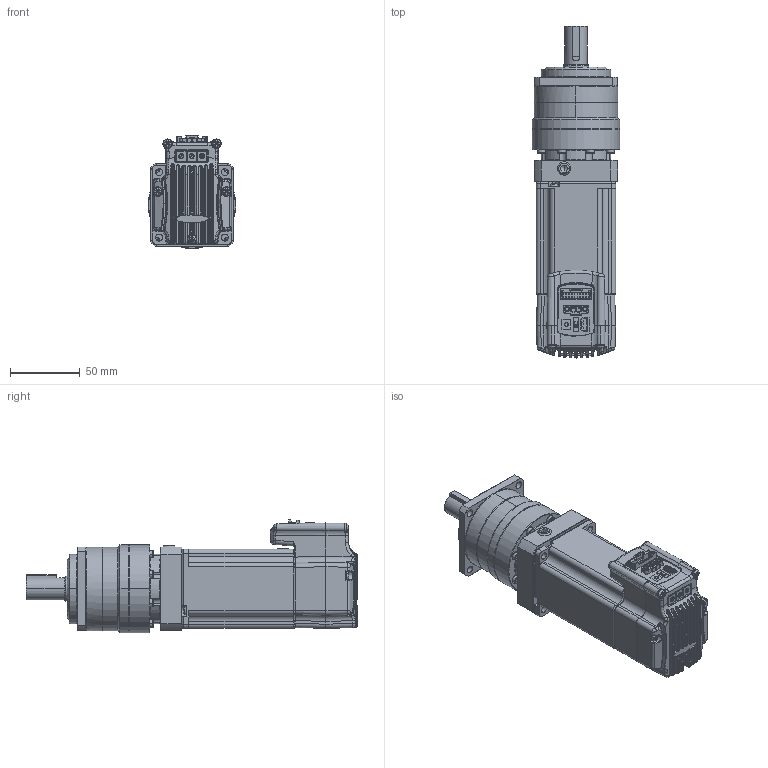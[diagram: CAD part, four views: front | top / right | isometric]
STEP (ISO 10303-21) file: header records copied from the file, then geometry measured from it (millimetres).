
FILE_DESCRIPTION (( 'STEP AP203' ), '1' );
FILE_NAME ('130416 Ezi-SERVO PG-BT-56L-PN3~10.STEP', '2013-04-17T01:15:47', ( '' ), ( '' ), 'SwSTEP 2.0', 'SolidWorks 2012', '' );
FILE_SCHEMA (( 'CONFIG_CONTROL_DESIGN' ));
Products named in the file (40): 130416 Ezi-SERVO PG-BT-56L-PN3~10; ST56 1ST; 38_3; 37_7; 36_7; 35_7; 34_7; 33_7; 32_7; 31_7; 30_7; 29_7; 28_7; 27_7; 26_7; 25_7; 24_7; 23_7; 22_7; 21_7; 20_7; 19_7; 18_7; 17_7; 16_7; 15_7; 14_7; 13_7; 12_7; 11_7; 10_7; 9_7; 8_7; 7_7; 6_7; 5_7; 4_7; 3_7; 2_7; 1_7
Assembly tree (39 placements, depth 2):
  130416 Ezi-SERVO PG-BT-56L-PN3~10
    1_7
    2_7
    3_7
    4_7
    5_7
    6_7
    7_7
    8_7
    9_7
    10_7
    11_7
    12_7
    13_7
    14_7
    15_7
    16_7
    17_7
    18_7
    19_7
    20_7
    21_7
    22_7
    23_7
    24_7
    25_7
    26_7
    27_7
    28_7
    29_7
    30_7
    31_7
    32_7
    33_7
    34_7
    35_7
    36_7
    37_7
    38_3
    ST56 1ST
Bounding box: 63 x 238.5 x 81.43 mm (x, y, z)
Volume: 294739.4 mm3; surface area: 128654.1 mm2
Topology: 36 solids, 41 shells, 3613 faces, 9049 edges, 5533 vertices
Faces by surface type: plane 1575, cylinder 1124, bspline 669, cone 191, torus 54
Entity records: 169600 total; most frequent: CARTESIAN_POINT 87840, ORIENTED_EDGE 17812, DIRECTION 13108, EDGE_CURVE 8934, VERTEX_POINT 5533, AXIS2_PLACEMENT_3D 4404, VECTOR 4300, LINE 4300
